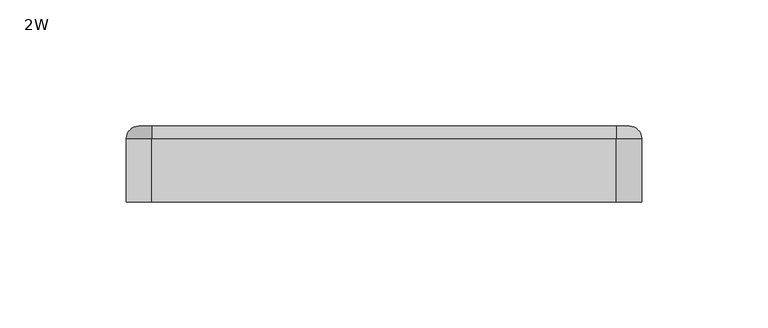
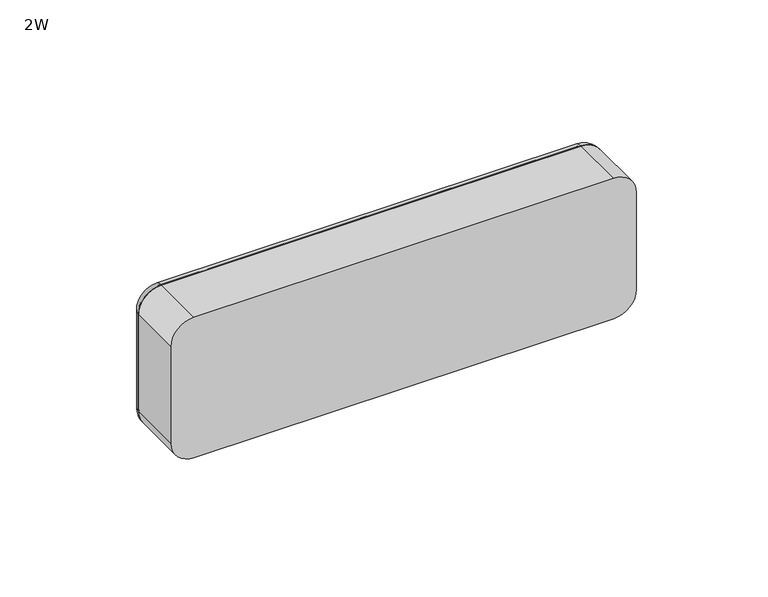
"""IFC4 building model written with IfcOpenShell, lengths in millimetres: light fixture geometry, Luminária de Emergência na parede vinculada : 2W."""

from ifc_helpers import new_model, si_unit, point, frame, frame_2d, origin, place, context, project, spatial, polyline, circle_curve, ellipse_curve, trimmed, segment, composite_curve, outline, extrude, source, transform, mapped, element, save
from ifc_brep_helpers import plane_surface, cylinder_surface, revolved_surface, advanced_brep


def light_fixture_2w_85303c80(model_context):
    return source(origin(), model_context, "Body", "SolidModel", [
        extrude(outline(polyline([(2560.0, 95.1754319), (2560.0, 85.1754319), (2505.0, 85.1754319), (2505.0, 95.1754319), (2560.0, 95.1754319)]), holes=[polyline([(2559.0, 94.1754319), (2551.0, 94.1754319), (2551.0, 86.1754319), (2559.0, 86.1754319), (2559.0, 94.1754319)]), polyline([(2550.0, 86.1754319), (2550.0, 94.1754319), (2542.0, 94.1754319), (2542.0, 86.1754319), (2550.0, 86.1754319)]), polyline([(2541.0, 86.1754319), (2541.0, 94.1754319), (2533.0, 94.1754319), (2533.0, 86.1754319), (2541.0, 86.1754319)]), polyline([(2532.0, 86.1754319), (2532.0, 94.1754319), (2524.0, 94.1754319), (2524.0, 86.1754319), (2532.0, 86.1754319)]), polyline([(2523.0, 86.1754319), (2523.0, 94.1754319), (2515.0, 94.1754319), (2515.0, 86.1754319), (2523.0, 86.1754319)]), polyline([(2514.0, 86.1754319), (2514.0, 94.1754319), (2506.0, 94.1754319), (2506.0, 86.1754319), (2514.0, 86.1754319)])]), frame((0.0, 25.0, 0.0), z_axis=(0.0, 1.0, 0.0), x_axis=(0.0, 0.0, 1.0)), (0.0, 0.0, 1.0), 2.0),
        extrude(outline(polyline([(2560.0, 85.1754319), (2560.0, 75.1754319), (2505.0, 75.1754319), (2505.0, 85.1754319), (2560.0, 85.1754319)]), holes=[polyline([(2559.0, 84.1754319), (2551.0, 84.1754319), (2551.0, 76.1754319), (2559.0, 76.1754319), (2559.0, 84.1754319)]), polyline([(2550.0, 76.1754319), (2550.0, 84.1754319), (2542.0, 84.1754319), (2542.0, 76.1754319), (2550.0, 76.1754319)]), polyline([(2541.0, 76.1754319), (2541.0, 84.1754319), (2533.0, 84.1754319), (2533.0, 76.1754319), (2541.0, 76.1754319)]), polyline([(2532.0, 76.1754319), (2532.0, 84.1754319), (2524.0, 84.1754319), (2524.0, 76.1754319), (2532.0, 76.1754319)]), polyline([(2523.0, 76.1754319), (2523.0, 84.1754319), (2515.0, 84.1754319), (2515.0, 76.1754319), (2523.0, 76.1754319)]), polyline([(2514.0, 76.1754319), (2514.0, 84.1754319), (2506.0, 84.1754319), (2506.0, 76.1754319), (2514.0, 76.1754319)])]), frame((0.0, 25.0, 0.0), z_axis=(0.0, 1.0, 0.0), x_axis=(0.0, 0.0, 1.0)), (0.0, 0.0, 1.0), 2.0),
        extrude(outline(polyline([(2560.0, 75.1754319), (2560.0, 65.1754319), (2505.0, 65.1754319), (2505.0, 75.1754319), (2560.0, 75.1754319)]), holes=[polyline([(2559.0, 74.1754319), (2551.0, 74.1754319), (2551.0, 66.1754319), (2559.0, 66.1754319), (2559.0, 74.1754319)]), polyline([(2550.0, 66.1754319), (2550.0, 74.1754319), (2542.0, 74.1754319), (2542.0, 66.1754319), (2550.0, 66.1754319)]), polyline([(2541.0, 66.1754319), (2541.0, 74.1754319), (2533.0, 74.1754319), (2533.0, 66.1754319), (2541.0, 66.1754319)]), polyline([(2532.0, 66.1754319), (2532.0, 74.1754319), (2524.0, 74.1754319), (2524.0, 66.1754319), (2532.0, 66.1754319)]), polyline([(2523.0, 66.1754319), (2523.0, 74.1754319), (2515.0, 74.1754319), (2515.0, 66.1754319), (2523.0, 66.1754319)]), polyline([(2514.0, 66.1754319), (2514.0, 74.1754319), (2506.0, 74.1754319), (2506.0, 66.1754319), (2514.0, 66.1754319)])]), frame((0.0, 25.0, 0.0), z_axis=(0.0, 1.0, 0.0), x_axis=(0.0, 0.0, 1.0)), (0.0, 0.0, 1.0), 2.0),
        extrude(outline(polyline([(2560.0, 65.1754319), (2560.0, 55.1754319), (2505.0, 55.1754319), (2505.0, 65.1754319), (2560.0, 65.1754319)]), holes=[polyline([(2559.0, 64.1754319), (2551.0, 64.1754319), (2551.0, 56.1754319), (2559.0, 56.1754319), (2559.0, 64.1754319)]), polyline([(2550.0, 56.1754319), (2550.0, 64.1754319), (2542.0, 64.1754319), (2542.0, 56.1754319), (2550.0, 56.1754319)]), polyline([(2541.0, 56.1754319), (2541.0, 64.1754319), (2533.0, 64.1754319), (2533.0, 56.1754319), (2541.0, 56.1754319)]), polyline([(2532.0, 56.1754319), (2532.0, 64.1754319), (2524.0, 64.1754319), (2524.0, 56.1754319), (2532.0, 56.1754319)]), polyline([(2523.0, 56.1754319), (2523.0, 64.1754319), (2515.0, 64.1754319), (2515.0, 56.1754319), (2523.0, 56.1754319)]), polyline([(2514.0, 56.1754319), (2514.0, 64.1754319), (2506.0, 64.1754319), (2506.0, 56.1754319), (2514.0, 56.1754319)])]), frame((0.0, 25.0, 0.0), z_axis=(0.0, 1.0, 0.0), x_axis=(0.0, 0.0, 1.0)), (0.0, 0.0, 1.0), 2.0),
        extrude(outline(polyline([(2560.0, 55.1754319), (2560.0, 45.1754319), (2505.0, 45.1754319), (2505.0, 55.1754319), (2560.0, 55.1754319)]), holes=[polyline([(2559.0, 54.1754319), (2551.0, 54.1754319), (2551.0, 46.1754319), (2559.0, 46.1754319), (2559.0, 54.1754319)]), polyline([(2550.0, 46.1754319), (2550.0, 54.1754319), (2542.0, 54.1754319), (2542.0, 46.1754319), (2550.0, 46.1754319)]), polyline([(2541.0, 46.1754319), (2541.0, 54.1754319), (2533.0, 54.1754319), (2533.0, 46.1754319), (2541.0, 46.1754319)]), polyline([(2532.0, 46.1754319), (2532.0, 54.1754319), (2524.0, 54.1754319), (2524.0, 46.1754319), (2532.0, 46.1754319)]), polyline([(2523.0, 46.1754319), (2523.0, 54.1754319), (2515.0, 54.1754319), (2515.0, 46.1754319), (2523.0, 46.1754319)]), polyline([(2514.0, 46.1754319), (2514.0, 54.1754319), (2506.0, 54.1754319), (2506.0, 46.1754319), (2514.0, 46.1754319)])]), frame((0.0, 25.0, 0.0), z_axis=(0.0, 1.0, 0.0), x_axis=(0.0, 0.0, 1.0)), (0.0, 0.0, 1.0), 2.0),
        extrude(outline(polyline([(2560.0, 45.1754319), (2560.0, 35.1754319), (2505.0, 35.1754319), (2505.0, 45.1754319), (2560.0, 45.1754319)]), holes=[polyline([(2559.0, 44.1754319), (2551.0, 44.1754319), (2551.0, 36.1754319), (2559.0, 36.1754319), (2559.0, 44.1754319)]), polyline([(2550.0, 36.1754319), (2550.0, 44.1754319), (2542.0, 44.1754319), (2542.0, 36.1754319), (2550.0, 36.1754319)]), polyline([(2541.0, 36.1754319), (2541.0, 44.1754319), (2533.0, 44.1754319), (2533.0, 36.1754319), (2541.0, 36.1754319)]), polyline([(2532.0, 36.1754319), (2532.0, 44.1754319), (2524.0, 44.1754319), (2524.0, 36.1754319), (2532.0, 36.1754319)]), polyline([(2523.0, 36.1754319), (2523.0, 44.1754319), (2515.0, 44.1754319), (2515.0, 36.1754319), (2523.0, 36.1754319)]), polyline([(2514.0, 36.1754319), (2514.0, 44.1754319), (2506.0, 44.1754319), (2506.0, 36.1754319), (2514.0, 36.1754319)])]), frame((0.0, 25.0, 0.0), z_axis=(0.0, 1.0, 0.0), x_axis=(0.0, 0.0, 1.0)), (0.0, 0.0, 1.0), 2.0),
        extrude(outline(polyline([(2560.0, 35.1754319), (2560.0, 25.1754319), (2505.0, 25.1754319), (2505.0, 35.1754319), (2560.0, 35.1754319)]), holes=[polyline([(2559.0, 34.1754319), (2551.0, 34.1754319), (2551.0, 26.1754319), (2559.0, 26.1754319), (2559.0, 34.1754319)]), polyline([(2550.0, 26.1754319), (2550.0, 34.1754319), (2542.0, 34.1754319), (2542.0, 26.1754319), (2550.0, 26.1754319)]), polyline([(2541.0, 26.1754319), (2541.0, 34.1754319), (2533.0, 34.1754319), (2533.0, 26.1754319), (2541.0, 26.1754319)]), polyline([(2532.0, 26.1754319), (2532.0, 34.1754319), (2524.0, 34.1754319), (2524.0, 26.1754319), (2532.0, 26.1754319)]), polyline([(2523.0, 26.1754319), (2523.0, 34.1754319), (2515.0, 34.1754319), (2515.0, 26.1754319), (2523.0, 26.1754319)]), polyline([(2514.0, 26.1754319), (2514.0, 34.1754319), (2506.0, 34.1754319), (2506.0, 26.1754319), (2514.0, 26.1754319)])]), frame((0.0, 25.0, 0.0), z_axis=(0.0, 1.0, 0.0), x_axis=(0.0, 0.0, 1.0)), (0.0, 0.0, 1.0), 2.0),
        extrude(outline(polyline([(2560.0, 25.1754319), (2560.0, 15.1754319), (2505.0, 15.1754319), (2505.0, 25.1754319), (2560.0, 25.1754319)]), holes=[polyline([(2559.0, 24.1754319), (2551.0, 24.1754319), (2551.0, 16.1754319), (2559.0, 16.1754319), (2559.0, 24.1754319)]), polyline([(2550.0, 16.1754319), (2550.0, 24.1754319), (2542.0, 24.1754319), (2542.0, 16.1754319), (2550.0, 16.1754319)]), polyline([(2541.0, 16.1754319), (2541.0, 24.1754319), (2533.0, 24.1754319), (2533.0, 16.1754319), (2541.0, 16.1754319)]), polyline([(2532.0, 16.1754319), (2532.0, 24.1754319), (2524.0, 24.1754319), (2524.0, 16.1754319), (2532.0, 16.1754319)]), polyline([(2523.0, 16.1754319), (2523.0, 24.1754319), (2515.0, 24.1754319), (2515.0, 16.1754319), (2523.0, 16.1754319)]), polyline([(2514.0, 16.1754319), (2514.0, 24.1754319), (2506.0, 24.1754319), (2506.0, 16.1754319), (2514.0, 16.1754319)])]), frame((0.0, 25.0, 0.0), z_axis=(0.0, 1.0, 0.0), x_axis=(0.0, 0.0, 1.0)), (0.0, 0.0, 1.0), 2.0),
        extrude(outline(polyline([(2560.0, 15.1754319), (2560.0, 5.1754319), (2505.0, 5.1754319), (2505.0, 15.1754319), (2560.0, 15.1754319)]), holes=[polyline([(2559.0, 14.1754319), (2551.0, 14.1754319), (2551.0, 6.1754319), (2559.0, 6.1754319), (2559.0, 14.1754319)]), polyline([(2550.0, 6.1754319), (2550.0, 14.1754319), (2542.0, 14.1754319), (2542.0, 6.1754319), (2550.0, 6.1754319)]), polyline([(2541.0, 6.1754319), (2541.0, 14.1754319), (2533.0, 14.1754319), (2533.0, 6.1754319), (2541.0, 6.1754319)]), polyline([(2532.0, 6.1754319), (2532.0, 14.1754319), (2524.0, 14.1754319), (2524.0, 6.1754319), (2532.0, 6.1754319)]), polyline([(2523.0, 6.1754319), (2523.0, 14.1754319), (2515.0, 14.1754319), (2515.0, 6.1754319), (2523.0, 6.1754319)]), polyline([(2514.0, 6.1754319), (2514.0, 14.1754319), (2506.0, 14.1754319), (2506.0, 6.1754319), (2514.0, 6.1754319)])]), frame((0.0, 25.0, 0.0), z_axis=(0.0, 1.0, 0.0), x_axis=(0.0, 0.0, 1.0)), (0.0, 0.0, 1.0), 2.0),
        extrude(outline(polyline([(2560.0, 5.1754319), (2560.0, -4.8245681), (2505.0, -4.8245681), (2505.0, 5.1754319), (2560.0, 5.1754319)]), holes=[polyline([(2559.0, 4.1754319), (2551.0, 4.1754319), (2551.0, -3.8245681), (2559.0, -3.8245681), (2559.0, 4.1754319)]), polyline([(2550.0, -3.8245681), (2550.0, 4.1754319), (2542.0, 4.1754319), (2542.0, -3.8245681), (2550.0, -3.8245681)]), polyline([(2541.0, -3.8245681), (2541.0, 4.1754319), (2533.0, 4.1754319), (2533.0, -3.8245681), (2541.0, -3.8245681)]), polyline([(2532.0, -3.8245681), (2532.0, 4.1754319), (2524.0, 4.1754319), (2524.0, -3.8245681), (2532.0, -3.8245681)]), polyline([(2523.0, -3.8245681), (2523.0, 4.1754319), (2515.0, 4.1754319), (2515.0, -3.8245681), (2523.0, -3.8245681)]), polyline([(2514.0, -3.8245681), (2514.0, 4.1754319), (2506.0, 4.1754319), (2506.0, -3.8245681), (2514.0, -3.8245681)])]), frame((0.0, 25.0, 0.0), z_axis=(0.0, 1.0, 0.0), x_axis=(0.0, 0.0, 1.0)), (0.0, 0.0, 1.0), 2.0),
        extrude(outline(polyline([(2560.0, -4.8245681), (2560.0, -14.8245681), (2505.0, -14.8245681), (2505.0, -4.8245681), (2560.0, -4.8245681)]), holes=[polyline([(2559.0, -5.8245681), (2551.0, -5.8245681), (2551.0, -13.8245681), (2559.0, -13.8245681), (2559.0, -5.8245681)]), polyline([(2550.0, -13.8245681), (2550.0, -5.8245681), (2542.0, -5.8245681), (2542.0, -13.8245681), (2550.0, -13.8245681)]), polyline([(2541.0, -13.8245681), (2541.0, -5.8245681), (2533.0, -5.8245681), (2533.0, -13.8245681), (2541.0, -13.8245681)]), polyline([(2532.0, -13.8245681), (2532.0, -5.8245681), (2524.0, -5.8245681), (2524.0, -13.8245681), (2532.0, -13.8245681)]), polyline([(2523.0, -13.8245681), (2523.0, -5.8245681), (2515.0, -5.8245681), (2515.0, -13.8245681), (2523.0, -13.8245681)]), polyline([(2514.0, -13.8245681), (2514.0, -5.8245681), (2506.0, -5.8245681), (2506.0, -13.8245681), (2514.0, -13.8245681)])]), frame((0.0, 25.0, 0.0), z_axis=(0.0, 1.0, 0.0), x_axis=(0.0, 0.0, 1.0)), (0.0, 0.0, 1.0), 2.0),
        extrude(outline(polyline([(2560.0, -14.8245681), (2560.0, -24.8245681), (2505.0, -24.8245681), (2505.0, -14.8245681), (2560.0, -14.8245681)]), holes=[polyline([(2559.0, -15.8245681), (2551.0, -15.8245681), (2551.0, -23.8245681), (2559.0, -23.8245681), (2559.0, -15.8245681)]), polyline([(2550.0, -23.8245681), (2550.0, -15.8245681), (2542.0, -15.8245681), (2542.0, -23.8245681), (2550.0, -23.8245681)]), polyline([(2541.0, -23.8245681), (2541.0, -15.8245681), (2533.0, -15.8245681), (2533.0, -23.8245681), (2541.0, -23.8245681)]), polyline([(2532.0, -23.8245681), (2532.0, -15.8245681), (2524.0, -15.8245681), (2524.0, -23.8245681), (2532.0, -23.8245681)]), polyline([(2523.0, -23.8245681), (2523.0, -15.8245681), (2515.0, -15.8245681), (2515.0, -23.8245681), (2523.0, -23.8245681)]), polyline([(2514.0, -23.8245681), (2514.0, -15.8245681), (2506.0, -15.8245681), (2506.0, -23.8245681), (2514.0, -23.8245681)])]), frame((0.0, 25.0, 0.0), z_axis=(0.0, 1.0, 0.0), x_axis=(0.0, 0.0, 1.0)), (0.0, 0.0, 1.0), 2.0),
        extrude(outline(polyline([(2560.0, -24.8245681), (2560.0, -34.8245681), (2505.0, -34.8245681), (2505.0, -24.8245681), (2560.0, -24.8245681)]), holes=[polyline([(2559.0, -25.8245681), (2551.0, -25.8245681), (2551.0, -33.8245681), (2559.0, -33.8245681), (2559.0, -25.8245681)]), polyline([(2550.0, -33.8245681), (2550.0, -25.8245681), (2542.0, -25.8245681), (2542.0, -33.8245681), (2550.0, -33.8245681)]), polyline([(2541.0, -33.8245681), (2541.0, -25.8245681), (2533.0, -25.8245681), (2533.0, -33.8245681), (2541.0, -33.8245681)]), polyline([(2532.0, -33.8245681), (2532.0, -25.8245681), (2524.0, -25.8245681), (2524.0, -33.8245681), (2532.0, -33.8245681)]), polyline([(2523.0, -33.8245681), (2523.0, -25.8245681), (2515.0, -25.8245681), (2515.0, -33.8245681), (2523.0, -33.8245681)]), polyline([(2514.0, -33.8245681), (2514.0, -25.8245681), (2506.0, -25.8245681), (2506.0, -33.8245681), (2514.0, -33.8245681)])]), frame((0.0, 25.0, 0.0), z_axis=(0.0, 1.0, 0.0), x_axis=(0.0, 0.0, 1.0)), (0.0, 0.0, 1.0), 2.0),
        extrude(outline(polyline([(2560.0, -34.8245681), (2560.0, -44.8245681), (2505.0, -44.8245681), (2505.0, -34.8245681), (2560.0, -34.8245681)]), holes=[polyline([(2559.0, -35.8245681), (2551.0, -35.8245681), (2551.0, -43.8245681), (2559.0, -43.8245681), (2559.0, -35.8245681)]), polyline([(2550.0, -43.8245681), (2550.0, -35.8245681), (2542.0, -35.8245681), (2542.0, -43.8245681), (2550.0, -43.8245681)]), polyline([(2541.0, -43.8245681), (2541.0, -35.8245681), (2533.0, -35.8245681), (2533.0, -43.8245681), (2541.0, -43.8245681)]), polyline([(2532.0, -43.8245681), (2532.0, -35.8245681), (2524.0, -35.8245681), (2524.0, -43.8245681), (2532.0, -43.8245681)]), polyline([(2523.0, -43.8245681), (2523.0, -35.8245681), (2515.0, -35.8245681), (2515.0, -43.8245681), (2523.0, -43.8245681)]), polyline([(2514.0, -43.8245681), (2514.0, -35.8245681), (2506.0, -35.8245681), (2506.0, -43.8245681), (2514.0, -43.8245681)])]), frame((0.0, 25.0, 0.0), z_axis=(0.0, 1.0, 0.0), x_axis=(0.0, 0.0, 1.0)), (0.0, 0.0, 1.0), 2.0),
        extrude(outline(polyline([(2560.0, -44.8245681), (2560.0, -54.8245681), (2505.0, -54.8245681), (2505.0, -44.8245681), (2560.0, -44.8245681)]), holes=[polyline([(2559.0, -45.8245681), (2551.0, -45.8245681), (2551.0, -53.8245681), (2559.0, -53.8245681), (2559.0, -45.8245681)]), polyline([(2550.0, -53.8245681), (2550.0, -45.8245681), (2542.0, -45.8245681), (2542.0, -53.8245681), (2550.0, -53.8245681)]), polyline([(2541.0, -53.8245681), (2541.0, -45.8245681), (2533.0, -45.8245681), (2533.0, -53.8245681), (2541.0, -53.8245681)]), polyline([(2532.0, -53.8245681), (2532.0, -45.8245681), (2524.0, -45.8245681), (2524.0, -53.8245681), (2532.0, -53.8245681)]), polyline([(2523.0, -53.8245681), (2523.0, -45.8245681), (2515.0, -45.8245681), (2515.0, -53.8245681), (2523.0, -53.8245681)]), polyline([(2514.0, -53.8245681), (2514.0, -45.8245681), (2506.0, -45.8245681), (2506.0, -53.8245681), (2514.0, -53.8245681)])]), frame((0.0, 25.0, 0.0), z_axis=(0.0, 1.0, 0.0), x_axis=(0.0, 0.0, 1.0)), (0.0, 0.0, 1.0), 2.0),
        extrude(outline(polyline([(2560.0, -54.8245681), (2560.0, -64.8245681), (2505.0, -64.8245681), (2505.0, -54.8245681), (2560.0, -54.8245681)]), holes=[polyline([(2559.0, -55.8245681), (2551.0, -55.8245681), (2551.0, -63.8245681), (2559.0, -63.8245681), (2559.0, -55.8245681)]), polyline([(2550.0, -63.8245681), (2550.0, -55.8245681), (2542.0, -55.8245681), (2542.0, -63.8245681), (2550.0, -63.8245681)]), polyline([(2541.0, -63.8245681), (2541.0, -55.8245681), (2533.0, -55.8245681), (2533.0, -63.8245681), (2541.0, -63.8245681)]), polyline([(2532.0, -63.8245681), (2532.0, -55.8245681), (2524.0, -55.8245681), (2524.0, -63.8245681), (2532.0, -63.8245681)]), polyline([(2523.0, -63.8245681), (2523.0, -55.8245681), (2515.0, -55.8245681), (2515.0, -63.8245681), (2523.0, -63.8245681)]), polyline([(2514.0, -63.8245681), (2514.0, -55.8245681), (2506.0, -55.8245681), (2506.0, -63.8245681), (2514.0, -63.8245681)])]), frame((0.0, 25.0, 0.0), z_axis=(0.0, 1.0, 0.0), x_axis=(0.0, 0.0, 1.0)), (0.0, 0.0, 1.0), 2.0),
        extrude(outline(polyline([(2560.0, -64.8245681), (2560.0, -74.8245681), (2505.0, -74.8245681), (2505.0, -64.8245681), (2560.0, -64.8245681)]), holes=[polyline([(2559.0, -65.8245681), (2551.0, -65.8245681), (2551.0, -73.8245681), (2559.0, -73.8245681), (2559.0, -65.8245681)]), polyline([(2550.0, -73.8245681), (2550.0, -65.8245681), (2542.0, -65.8245681), (2542.0, -73.8245681), (2550.0, -73.8245681)]), polyline([(2541.0, -73.8245681), (2541.0, -65.8245681), (2533.0, -65.8245681), (2533.0, -73.8245681), (2541.0, -73.8245681)]), polyline([(2532.0, -73.8245681), (2532.0, -65.8245681), (2524.0, -65.8245681), (2524.0, -73.8245681), (2532.0, -73.8245681)]), polyline([(2523.0, -73.8245681), (2523.0, -65.8245681), (2515.0, -65.8245681), (2515.0, -73.8245681), (2523.0, -73.8245681)]), polyline([(2514.0, -73.8245681), (2514.0, -65.8245681), (2506.0, -65.8245681), (2506.0, -73.8245681), (2514.0, -73.8245681)])]), frame((0.0, 25.0, 0.0), z_axis=(0.0, 1.0, 0.0), x_axis=(0.0, 0.0, 1.0)), (0.0, 0.0, 1.0), 2.0),
        extrude(outline(polyline([(2560.0, -74.8245681), (2560.0, -84.8245681), (2505.0, -84.8245681), (2505.0, -74.8245681), (2560.0, -74.8245681)]), holes=[polyline([(2559.0, -75.8245681), (2551.0, -75.8245681), (2551.0, -83.8245681), (2559.0, -83.8245681), (2559.0, -75.8245681)]), polyline([(2550.0, -83.8245681), (2550.0, -75.8245681), (2542.0, -75.8245681), (2542.0, -83.8245681), (2550.0, -83.8245681)]), polyline([(2541.0, -83.8245681), (2541.0, -75.8245681), (2533.0, -75.8245681), (2533.0, -83.8245681), (2541.0, -83.8245681)]), polyline([(2532.0, -83.8245681), (2532.0, -75.8245681), (2524.0, -75.8245681), (2524.0, -83.8245681), (2532.0, -83.8245681)]), polyline([(2523.0, -83.8245681), (2523.0, -75.8245681), (2515.0, -75.8245681), (2515.0, -83.8245681), (2523.0, -83.8245681)]), polyline([(2514.0, -83.8245681), (2514.0, -75.8245681), (2506.0, -75.8245681), (2506.0, -83.8245681), (2514.0, -83.8245681)])]), frame((0.0, 25.0, 0.0), z_axis=(0.0, 1.0, 0.0), x_axis=(0.0, 0.0, 1.0)), (0.0, 0.0, 1.0), 2.0),
        extrude(outline(polyline([(2560.0, -84.8245681), (2560.0, -94.8245681), (2505.0, -94.8245681), (2505.0, -84.8245681), (2560.0, -84.8245681)]), holes=[polyline([(2559.0, -85.8245681), (2551.0, -85.8245681), (2551.0, -93.8245681), (2559.0, -93.8245681), (2559.0, -85.8245681)]), polyline([(2550.0, -93.8245681), (2550.0, -85.8245681), (2542.0, -85.8245681), (2542.0, -93.8245681), (2550.0, -93.8245681)]), polyline([(2541.0, -93.8245681), (2541.0, -85.8245681), (2533.0, -85.8245681), (2533.0, -93.8245681), (2541.0, -93.8245681)]), polyline([(2532.0, -93.8245681), (2532.0, -85.8245681), (2524.0, -85.8245681), (2524.0, -93.8245681), (2532.0, -93.8245681)]), polyline([(2523.0, -93.8245681), (2523.0, -85.8245681), (2515.0, -85.8245681), (2515.0, -93.8245681), (2523.0, -93.8245681)]), polyline([(2514.0, -93.8245681), (2514.0, -85.8245681), (2506.0, -85.8245681), (2506.0, -93.8245681), (2514.0, -93.8245681)])]), frame((0.0, 25.0, 0.0), z_axis=(0.0, 1.0, 0.0), x_axis=(0.0, 0.0, 1.0)), (0.0, 0.0, 1.0), 2.0),
        advanced_brep(
        [(-91.8245681, 29.0, 2560.0), (-96.8245681, 29.0, 2555.0), (-96.8245681, 30.0, 2555.0), (-91.8245681, 30.0, 2560.0), (-91.8245681, 25.0, 2564.0), (-100.8245681, 25.0, 2555.0), (-101.8245681, 25.0, 2555.0), (-91.8245681, 25.0, 2565.0), (92.1754319, 30.0, 2560.0), (92.1754319, 29.0, 2560.0), (92.1754319, 25.0, 2564.0), (92.1754319, 25.0, 2565.0), (97.1754319, 29.0, 2555.0), (97.1754319, 30.0, 2555.0), (101.1754319, 25.0, 2555.0), (102.1754319, 25.0, 2555.0), (97.1754319, 30.0, 2510.0), (97.1754319, 29.0, 2510.0), (101.1754319, 25.0, 2510.0), (102.1754319, 25.0, 2510.0), (92.1754319, 29.0, 2505.0), (92.1754319, 30.0, 2505.0), (92.1754319, 25.0, 2501.0), (92.1754319, 25.0, 2500.0), (-91.8245681, 30.0, 2505.0), (-91.8245681, 29.0, 2505.0), (-91.8245681, 25.0, 2501.0), (-91.8245681, 25.0, 2500.0), (-96.8245681, 29.0, 2510.0), (-96.8245681, 30.0, 2510.0), (-100.8245681, 25.0, 2510.0), (-101.8245681, 25.0, 2510.0)],
        [
            (0, 1, circle_curve(frame((-91.8245681, 29.0, 2555.0), z_axis=(0.0, -1.0, 0.0), x_axis=(-1.0, 0.0, 0.0)), 5.0)),
            (1, 2),
            (2, 3, circle_curve(frame((-91.8245681, 30.0, 2555.0), z_axis=(0.0, 1.0, 0.0), x_axis=(-1.0, 0.0, 0.0)), 5.0)),
            (3, 0),
            (4, 5, circle_curve(frame((-91.8245681, 25.0, 2555.0), z_axis=(0.0, -1.0, 0.0), x_axis=(-1.0, 0.0, 0.0)), 9.0)),
            (5, 1, circle_curve(frame((-96.8245681, 25.0, 2555.0), z_axis=(0.0, 0.0, -1.0), x_axis=(1.0, 0.0, 0.0)), 4.0)),
            (0, 4, circle_curve(frame((-91.8245681, 25.0, 2560.0), z_axis=(1.0, 0.0, 0.0), x_axis=(0.0, 0.0, -1.0)), 4.0)),
            (2, 6, circle_curve(frame((-96.8245681, 25.0, 2555.0), z_axis=(0.0, 0.0, 1.0), x_axis=(1.0, 0.0, 0.0)), 5.0)),
            (6, 7, circle_curve(frame((-91.8245681, 25.0, 2555.0), z_axis=(0.0, 1.0, 0.0), x_axis=(-1.0, 0.0, 0.0)), 10.0)),
            (7, 3, circle_curve(frame((-91.8245681, 25.0, 2560.0), z_axis=(-1.0, 0.0, 0.0), x_axis=(0.0, 0.0, -1.0)), 5.0)),
            (3, 8),
            (8, 9),
            (9, 0),
            (9, 10, circle_curve(frame((92.1754319, 25.0, 2560.0), z_axis=(1.0, 0.0, 0.0), x_axis=(0.0, 0.0, -1.0)), 4.0)),
            (10, 4),
            (7, 11),
            (11, 8, circle_curve(frame((92.1754319, 25.0, 2560.0), z_axis=(-1.0, 0.0, 0.0), x_axis=(0.0, 0.0, -1.0)), 5.0)),
            (12, 9, circle_curve(frame((92.1754319, 29.0, 2555.0), z_axis=(0.0, -1.0, 0.0), x_axis=(0.0, 0.0, 1.0)), 5.0)),
            (8, 13, circle_curve(frame((92.1754319, 30.0, 2555.0), z_axis=(0.0, 1.0, 0.0), x_axis=(0.0, 0.0, 1.0)), 5.0)),
            (13, 12),
            (14, 10, circle_curve(frame((92.1754319, 25.0, 2555.0), z_axis=(0.0, -1.0, 0.0), x_axis=(0.0, 0.0, 1.0)), 9.0)),
            (12, 14, circle_curve(frame((97.1754319, 25.0, 2555.0), z_axis=(0.0, 0.0, -1.0), x_axis=(-1.0, 0.0, 0.0)), 4.0)),
            (11, 15, circle_curve(frame((92.1754319, 25.0, 2555.0), z_axis=(0.0, 1.0, 0.0), x_axis=(0.0, 0.0, 1.0)), 10.0)),
            (15, 13, circle_curve(frame((97.1754319, 25.0, 2555.0), z_axis=(0.0, 0.0, 1.0), x_axis=(-1.0, 0.0, 0.0)), 5.0)),
            (13, 16),
            (16, 17),
            (17, 12),
            (17, 18, circle_curve(frame((97.1754319, 25.0, 2510.0), z_axis=(0.0, 0.0, -1.0), x_axis=(-1.0, 0.0, 0.0)), 4.0)),
            (18, 14),
            (15, 19),
            (19, 16, circle_curve(frame((97.1754319, 25.0, 2510.0), z_axis=(0.0, 0.0, 1.0), x_axis=(-1.0, 0.0, 0.0)), 5.0)),
            (20, 17, circle_curve(frame((92.1754319, 29.0, 2510.0), z_axis=(0.0, -1.0, 0.0), x_axis=(1.0, 0.0, 0.0)), 5.0)),
            (16, 21, circle_curve(frame((92.1754319, 30.0, 2510.0), z_axis=(0.0, 1.0, 0.0), x_axis=(1.0, 0.0, 0.0)), 5.0)),
            (21, 20),
            (22, 18, circle_curve(frame((92.1754319, 25.0, 2510.0), z_axis=(0.0, -1.0, 0.0), x_axis=(1.0, 0.0, 0.0)), 9.0)),
            (20, 22, circle_curve(frame((92.1754319, 25.0, 2505.0), z_axis=(-1.0, 0.0, 0.0), x_axis=(0.0, 0.0, 1.0)), 4.0)),
            (19, 23, circle_curve(frame((92.1754319, 25.0, 2510.0), z_axis=(0.0, 1.0, 0.0), x_axis=(1.0, 0.0, 0.0)), 10.0)),
            (23, 21, circle_curve(frame((92.1754319, 25.0, 2505.0), z_axis=(1.0, 0.0, 0.0), x_axis=(0.0, 0.0, 1.0)), 5.0)),
            (21, 24),
            (24, 25),
            (25, 20),
            (25, 26, circle_curve(frame((-91.8245681, 25.0, 2505.0), z_axis=(-1.0, 0.0, 0.0), x_axis=(0.0, 0.0, 1.0)), 4.0)),
            (26, 22),
            (23, 27),
            (27, 24, circle_curve(frame((-91.8245681, 25.0, 2505.0), z_axis=(1.0, 0.0, 0.0), x_axis=(0.0, 0.0, 1.0)), 5.0)),
            (28, 25, circle_curve(frame((-91.8245681, 29.0, 2510.0), z_axis=(0.0, -1.0, 0.0), x_axis=(0.0, 0.0, -1.0)), 5.0)),
            (24, 29, circle_curve(frame((-91.8245681, 30.0, 2510.0), z_axis=(0.0, 1.0, 0.0), x_axis=(0.0, 0.0, -1.0)), 5.0)),
            (29, 28),
            (30, 26, circle_curve(frame((-91.8245681, 25.0, 2510.0), z_axis=(0.0, -1.0, 0.0), x_axis=(0.0, 0.0, -1.0)), 9.0)),
            (28, 30, circle_curve(frame((-96.8245681, 25.0, 2510.0), z_axis=(0.0, 0.0, 1.0), x_axis=(1.0, 0.0, 0.0)), 4.0)),
            (27, 31, circle_curve(frame((-91.8245681, 25.0, 2510.0), z_axis=(0.0, 1.0, 0.0), x_axis=(0.0, 0.0, -1.0)), 10.0)),
            (31, 29, circle_curve(frame((-96.8245681, 25.0, 2510.0), z_axis=(0.0, 0.0, -1.0), x_axis=(1.0, 0.0, 0.0)), 5.0)),
            (29, 2),
            (1, 28),
            (5, 30),
            (6, 31),
        ],
        [
            revolved_surface(polyline([(-96.8245681, 30.0, 2555.0), (-96.8245681, 29.0, 2555.0)]), (-91.8245681, 25.0, 2555.0), (0.0, 1.0, 0.0)),
            revolved_surface(trimmed(ellipse_curve(frame((-96.8245681, 25.0, 2555.0), z_axis=(0.0, 0.0, 1.0), x_axis=(1.0, 0.0, 0.0)), 4.0, 4.0), [point((-96.8245681, 29.0, 2555.0))], [point((-100.8245681, 25.0, 2555.0))], True, "CARTESIAN"), (-91.8245681, 25.0, 2555.0), (0.0, 1.0, 0.0)),
            revolved_surface(trimmed(ellipse_curve(frame((-96.8245681, 25.0, 2555.0), z_axis=(0.0, 0.0, -1.0), x_axis=(1.0, 0.0, 0.0)), 5.0, 5.0), [point((-101.8245681, 25.0, 2555.0))], [point((-96.8245681, 30.0, 2555.0))], True, "CARTESIAN"), (-91.8245681, 25.0, 2555.0), (0.0, 1.0, 0.0)),
            plane_surface(frame((-91.8245681, 30.0, 2560.0), z_axis=(0.0, 0.0, -1.0), x_axis=(1.0, 0.0, 0.0))),
            revolved_surface(polyline([(92.1754319, 25.0, 2556.0), (-91.8245681, 25.0, 2556.0)]), (-91.8245681, 25.0, 2560.0), (1.0, 0.0, 0.0)),
            cylinder_surface(frame((-91.8245681, 25.0, 2560.0), z_axis=(-1.0, 0.0, 0.0), x_axis=(0.0, 0.0, -1.0)), 5.0),
            revolved_surface(polyline([(92.1754319, 30.0, 2560.0), (92.1754319, 29.0, 2560.0)]), (92.1754319, 25.0, 2555.0), (0.0, 1.0, 0.0)),
            revolved_surface(trimmed(ellipse_curve(frame((92.1754319, 25.0, 2560.0), z_axis=(1.0, 0.0, 0.0), x_axis=(0.0, 0.0, -1.0)), 4.0, 4.0), [point((92.1754319, 29.0, 2560.0))], [point((92.1754319, 25.0, 2564.0))], True, "CARTESIAN"), (92.1754319, 25.0, 2555.0), (0.0, 1.0, 0.0)),
            revolved_surface(trimmed(ellipse_curve(frame((92.1754319, 25.0, 2560.0), z_axis=(-1.0, 0.0, 0.0), x_axis=(0.0, 0.0, -1.0)), 5.0, 5.0), [point((92.1754319, 25.0, 2565.0))], [point((92.1754319, 30.0, 2560.0))], True, "CARTESIAN"), (92.1754319, 25.0, 2555.0), (0.0, 1.0, 0.0)),
            plane_surface(frame((97.1754319, 30.0, 2555.0), z_axis=(-1.0, 0.0, 0.0), x_axis=(0.0, 0.0, -1.0))),
            revolved_surface(polyline([(93.1754319, 25.0, 2510.0), (93.1754319, 25.0, 2555.0)]), (97.1754319, 25.0, 2555.0), (0.0, 0.0, -1.0)),
            cylinder_surface(frame((97.1754319, 25.0, 2555.0), z_axis=(0.0, 0.0, 1.0), x_axis=(-1.0, 0.0, 0.0)), 5.0),
            revolved_surface(polyline([(97.1754319, 30.0, 2510.0), (97.1754319, 29.0, 2510.0)]), (92.1754319, 25.0, 2510.0), (0.0, 1.0, 0.0)),
            revolved_surface(trimmed(ellipse_curve(frame((97.1754319, 25.0, 2510.0), z_axis=(0.0, 0.0, -1.0), x_axis=(-1.0, 0.0, 0.0)), 4.0, 4.0), [point((97.1754319, 29.0, 2510.0))], [point((101.1754319, 25.0, 2510.0))], True, "CARTESIAN"), (92.1754319, 25.0, 2510.0), (0.0, 1.0, 0.0)),
            revolved_surface(trimmed(ellipse_curve(frame((97.1754319, 25.0, 2510.0), z_axis=(0.0, 0.0, 1.0), x_axis=(-1.0, 0.0, 0.0)), 5.0, 5.0), [point((102.1754319, 25.0, 2510.0))], [point((97.1754319, 30.0, 2510.0))], True, "CARTESIAN"), (92.1754319, 25.0, 2510.0), (0.0, 1.0, 0.0)),
            plane_surface(frame((92.1754319, 30.0, 2505.0), z_axis=(0.0, 0.0, 1.0), x_axis=(-1.0, 0.0, 0.0))),
            revolved_surface(polyline([(-91.8245681, 25.0, 2509.0), (92.1754319, 25.0, 2509.0)]), (92.1754319, 25.0, 2505.0), (-1.0, 0.0, 0.0)),
            cylinder_surface(frame((92.1754319, 25.0, 2505.0), z_axis=(1.0, 0.0, 0.0), x_axis=(0.0, 0.0, 1.0)), 5.0),
            revolved_surface(polyline([(-91.8245681, 30.0, 2505.0), (-91.8245681, 29.0, 2505.0)]), (-91.8245681, 25.0, 2510.0), (0.0, 1.0, 0.0)),
            revolved_surface(trimmed(ellipse_curve(frame((-91.8245681, 25.0, 2505.0), z_axis=(-1.0, 0.0, 0.0), x_axis=(0.0, 0.0, 1.0)), 4.0, 4.0), [point((-91.8245681, 29.0, 2505.0))], [point((-91.8245681, 25.0, 2501.0))], True, "CARTESIAN"), (-91.8245681, 25.0, 2510.0), (0.0, 1.0, 0.0)),
            revolved_surface(trimmed(ellipse_curve(frame((-91.8245681, 25.0, 2505.0), z_axis=(1.0, 0.0, 0.0), x_axis=(0.0, 0.0, 1.0)), 5.0, 5.0), [point((-91.8245681, 25.0, 2500.0))], [point((-91.8245681, 30.0, 2505.0))], True, "CARTESIAN"), (-91.8245681, 25.0, 2510.0), (0.0, 1.0, 0.0)),
            plane_surface(frame((-96.8245681, 30.0, 2510.0), z_axis=(1.0, 0.0, 0.0), x_axis=(0.0, 0.0, 1.0))),
            revolved_surface(polyline([(-92.8245681, 25.0, 2555.0), (-92.8245681, 25.0, 2510.0)]), (-96.8245681, 25.0, 2510.0), (0.0, 0.0, 1.0)),
            plane_surface(frame((-100.8245681, 25.0, 2510.0), z_axis=(0.0, -1.0, 0.0), x_axis=(0.0, 0.0, 1.0))),
            cylinder_surface(frame((-96.8245681, 25.0, 2510.0), z_axis=(0.0, 0.0, -1.0), x_axis=(1.0, 0.0, 0.0)), 5.0),
        ],
        [
            (0, [[1, 2, 3, 4]]),
            (1, [[5, 6, -1, 7]]),
            (2, [[-3, 8, 9, 10]]),
            (3, [[-4, 11, 12, 13]]),
            (4, [[-7, -13, 14, 15]]),
            (5, [[-10, 16, 17, -11]]),
            (6, [[18, -12, 19, 20]]),
            (7, [[21, -14, -18, 22]]),
            (8, [[-19, -17, 23, 24]]),
            (9, [[-20, 25, 26, 27]]),
            (10, [[-22, -27, 28, 29]]),
            (11, [[-24, 30, 31, -25]]),
            (12, [[32, -26, 33, 34]]),
            (13, [[35, -28, -32, 36]]),
            (14, [[-33, -31, 37, 38]]),
            (15, [[-34, 39, 40, 41]]),
            (16, [[-36, -41, 42, 43]]),
            (17, [[-38, 44, 45, -39]]),
            (18, [[46, -40, 47, 48]]),
            (19, [[49, -42, -46, 50]]),
            (20, [[-47, -45, 51, 52]]),
            (21, [[-48, 53, -2, 54]]),
            (22, [[-50, -54, -6, 55]]),
            (23, [[56, -51, -44, -37, -30, -23, -16, -9], [-43, -49, -55, -5, -15, -21, -29, -35]]),
            (24, [[-52, -56, -8, -53]]),
        ],
    ),
        extrude(outline(composite_curve([segment(trimmed(circle_curve(frame_2d((2510.0, 92.1754319)), 10.0), [point((2500.0, 92.1754319))], [point((2510.0, 102.1754319))], False, "CARTESIAN"), True, "CONTINUOUS"), segment(polyline([(2510.0, 102.1754319), (2555.0, 102.1754319)]), True, "CONTINUOUS"), segment(trimmed(circle_curve(frame_2d((2555.0, 92.1754319)), 10.0), [point((2555.0, 102.1754319))], [point((2565.0, 92.1754319))], False, "CARTESIAN"), True, "CONTINUOUS"), segment(polyline([(2565.0, 92.1754319), (2565.0, -91.8245681)]), True, "CONTINUOUS"), segment(trimmed(circle_curve(frame_2d((2555.0, -91.8245681)), 10.0), [point((2565.0, -91.8245681))], [point((2555.0, -101.8245681))], False, "CARTESIAN"), True, "CONTINUOUS"), segment(polyline([(2555.0, -101.8245681), (2510.0, -101.8245681)]), True, "CONTINUOUS"), segment(trimmed(circle_curve(frame_2d((2510.0, -91.8245681)), 10.0), [point((2510.0, -101.8245681))], [point((2500.0, -91.8245681))], False, "CARTESIAN"), True, "CONTINUOUS"), segment(polyline([(2500.0, -91.8245681), (2500.0, 92.1754319)]), True, "CONTINUOUS")], self_intersect=False)), frame((0.0, 0.0, 0.0), z_axis=(0.0, 1.0, 0.0), x_axis=(0.0, 0.0, 1.0)), (0.0, 0.0, 1.0), 25.0),
    ])


if __name__ == "__main__":
    model = new_model("IFC4")
    model_context = context("Model", 3, world=origin())
    ifc_project = project(units=[si_unit("LENGTHUNIT", "METRE", prefix="MILLI")], contexts=[model_context])
    site = spatial("IfcSite", under=ifc_project)
    building = spatial("IfcBuilding", under=site)
    placement = place(None, origin())
    light_fixture_2w_shape = light_fixture_2w_85303c80(model_context)
    element("IfcLightFixture", 1, ObjectType="Luminária de Emergência na parede vinculada : 2W", at=placement, inside=building, context=model_context, shape_type="MappedRepresentation", body=[
        mapped(light_fixture_2w_shape, transform((0.0, 0.0, 0.0), x_axis=(1.0, 0.0, 0.0), y_axis=(0.0, 1.0, 0.0), z_axis=(0.0, 0.0, 1.0))),
    ])
    save(model, "model.ifc")
